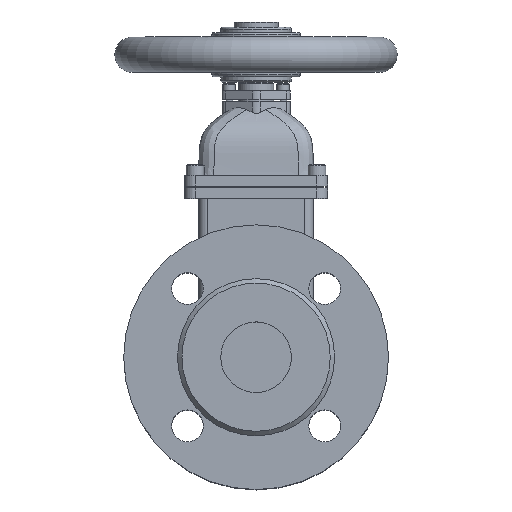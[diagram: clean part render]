
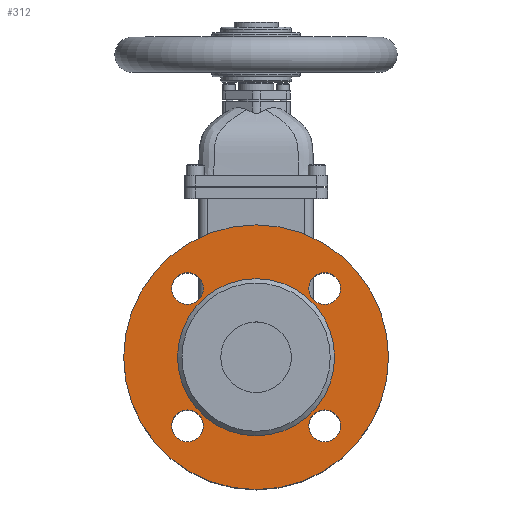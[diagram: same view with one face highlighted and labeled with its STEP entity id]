
A CAD part, top view. The second image highlights one B-rep face of the part: STEP entity #312.
In plain terms, the highlighted planar face has unit normal (0, 0, 1).
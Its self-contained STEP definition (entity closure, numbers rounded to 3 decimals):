
#312=ADVANCED_FACE('',(#2288,#2290,#2292,#2294,#2296,#2298),#2300,.T.);
#2288=FACE_BOUND('',#2289,.T.);
#2289=EDGE_LOOP('',(#8089));
#2290=FACE_BOUND('',#2291,.T.);
#2291=EDGE_LOOP('',(#8090));
#2292=FACE_BOUND('',#2293,.T.);
#2293=EDGE_LOOP('',(#8091));
#2294=FACE_BOUND('',#2295,.T.);
#2295=EDGE_LOOP('',(#8092));
#2296=FACE_BOUND('',#2297,.T.);
#2297=EDGE_LOOP('',(#8093));
#2298=FACE_BOUND('',#2299,.T.);
#2299=EDGE_LOOP('',(#8094));
#2300=PLANE('',#2301);
#2301=AXIS2_PLACEMENT_3D('',#2302,#2303,#2304);
#2302=CARTESIAN_POINT('',(0.,0.,67.5));
#2303=DIRECTION('',(0.,0.,1.));
#2304=DIRECTION('',(0.,1.,0.));
#8089=ORIENTED_EDGE('',*,*,#9283,.F.);
#8090=ORIENTED_EDGE('',*,*,#9284,.T.);
#8091=ORIENTED_EDGE('',*,*,#9285,.T.);
#8092=ORIENTED_EDGE('',*,*,#9286,.T.);
#8093=ORIENTED_EDGE('',*,*,#9301,.T.);
#8094=ORIENTED_EDGE('',*,*,#9287,.T.);
#9283=EDGE_CURVE('',#10299,#10299,#10300,.T.);
#9284=EDGE_CURVE('',#10301,#10301,#10302,.F.);
#9285=EDGE_CURVE('',#10303,#10303,#10304,.F.);
#9286=EDGE_CURVE('',#10305,#10305,#10306,.F.);
#9287=EDGE_CURVE('',#10307,#10307,#10308,.F.);
#9301=EDGE_CURVE('',#10335,#10335,#10336,.T.);
#10299=VERTEX_POINT('',#12455);
#10300=CIRCLE('',#12456,75.);
#10301=VERTEX_POINT('',#12460);
#10302=CIRCLE('',#12461,9.);
#10303=VERTEX_POINT('',#12465);
#10304=CIRCLE('',#12466,9.);
#10305=VERTEX_POINT('',#12470);
#10306=CIRCLE('',#12471,9.);
#10307=VERTEX_POINT('',#12475);
#10308=CIRCLE('',#12476,9.);
#10335=VERTEX_POINT('',#12767);
#10336=CIRCLE('',#12768,44.5);
#12455=CARTESIAN_POINT('',(0.,75.,67.5));
#12456=AXIS2_PLACEMENT_3D('',#12457,#12458,#12459);
#12457=CARTESIAN_POINT('',(0.,0.,67.5));
#12458=DIRECTION('',(0.,0.,-1.));
#12459=DIRECTION('',(0.,1.,0.));
#12460=CARTESIAN_POINT('',(38.891,-47.891,67.5));
#12461=AXIS2_PLACEMENT_3D('',#12462,#12463,#12464);
#12462=CARTESIAN_POINT('',(38.891,-38.891,67.5));
#12463=DIRECTION('',(0.,0.,1.));
#12464=DIRECTION('',(0.,-1.,0.));
#12465=CARTESIAN_POINT('',(-47.891,-38.891,67.5));
#12466=AXIS2_PLACEMENT_3D('',#12467,#12468,#12469);
#12467=CARTESIAN_POINT('',(-38.891,-38.891,67.5));
#12468=DIRECTION('',(0.,0.,1.));
#12469=DIRECTION('',(-1.,0.,0.));
#12470=CARTESIAN_POINT('',(-38.891,47.891,67.5));
#12471=AXIS2_PLACEMENT_3D('',#12472,#12473,#12474);
#12472=CARTESIAN_POINT('',(-38.891,38.891,67.5));
#12473=DIRECTION('',(0.,0.,1.));
#12474=DIRECTION('',(0.,1.,0.));
#12475=CARTESIAN_POINT('',(47.891,38.891,67.5));
#12476=AXIS2_PLACEMENT_3D('',#12477,#12478,#12479);
#12477=CARTESIAN_POINT('',(38.891,38.891,67.5));
#12478=DIRECTION('',(0.,0.,1.));
#12479=DIRECTION('',(1.,0.,0.));
#12767=CARTESIAN_POINT('',(0.,44.5,67.5));
#12768=AXIS2_PLACEMENT_3D('',#12769,#12770,#12771);
#12769=CARTESIAN_POINT('',(0.,0.,67.5));
#12770=DIRECTION('',(0.,0.,-1.));
#12771=DIRECTION('',(0.,1.,0.));
